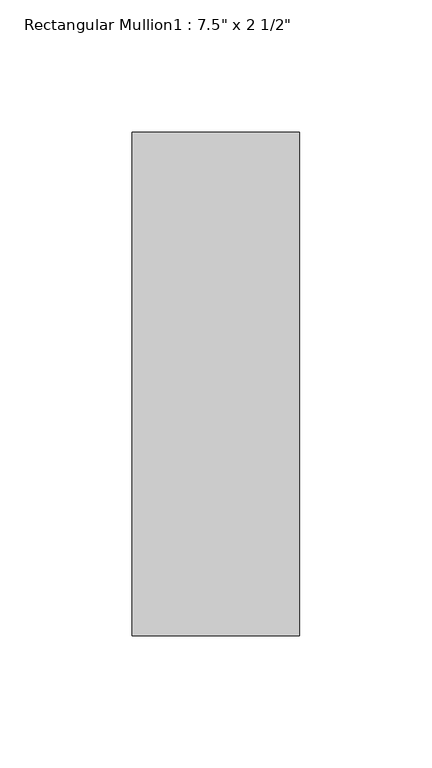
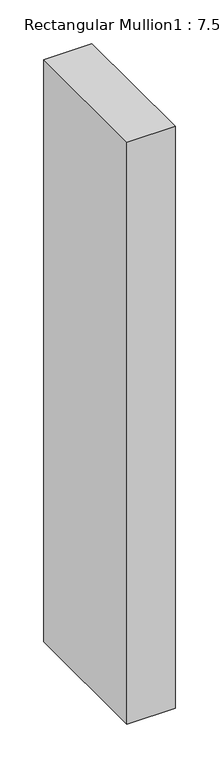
"""IFC4 building model written with IfcOpenShell, lengths in millimetres: member geometry."""

from ifc_helpers import new_model, si_unit, frame, origin, place, context, project, spatial, polyline, outline, extrude, source, transform, mapped, element, save


def member_5f47bb5b(model_context):
    return source(origin(), model_context, "Body", "SweptSolid", [
        extrude(outline(polyline([(0.0, 165.1), (0.0, -25.4), (-63.5, -25.4), (-63.5, 165.1), (0.0, 165.1)])), frame((0.0, 0.0, -812.7904075), z_axis=(0.0, 0.0, 1.0), x_axis=(1.0, 0.0, 0.0)), (0.0, 0.0, 1.0), 812.7904075),
    ])


if __name__ == "__main__":
    model = new_model("IFC4")
    model_context = context("Model", 3, world=origin())
    ifc_project = project(units=[si_unit("LENGTHUNIT", "METRE", prefix="MILLI")], contexts=[model_context])
    site = spatial("IfcSite", under=ifc_project)
    building = spatial("IfcBuilding", under=site)
    placement = place(None, origin())
    member_shape = member_5f47bb5b(model_context)
    element("IfcMember", 1, ObjectType="Rectangular Mullion1 : 7.5\" x 2 1/2\"", at=placement, inside=building, context=model_context, shape_type="MappedRepresentation", body=[
        mapped(member_shape, transform((0.0, 0.0, 0.0), x_axis=(1.0, 0.0, 0.0), y_axis=(0.0, 1.0, 0.0), z_axis=(0.0, 0.0, 1.0))),
    ])
    save(model, "model.ifc")
